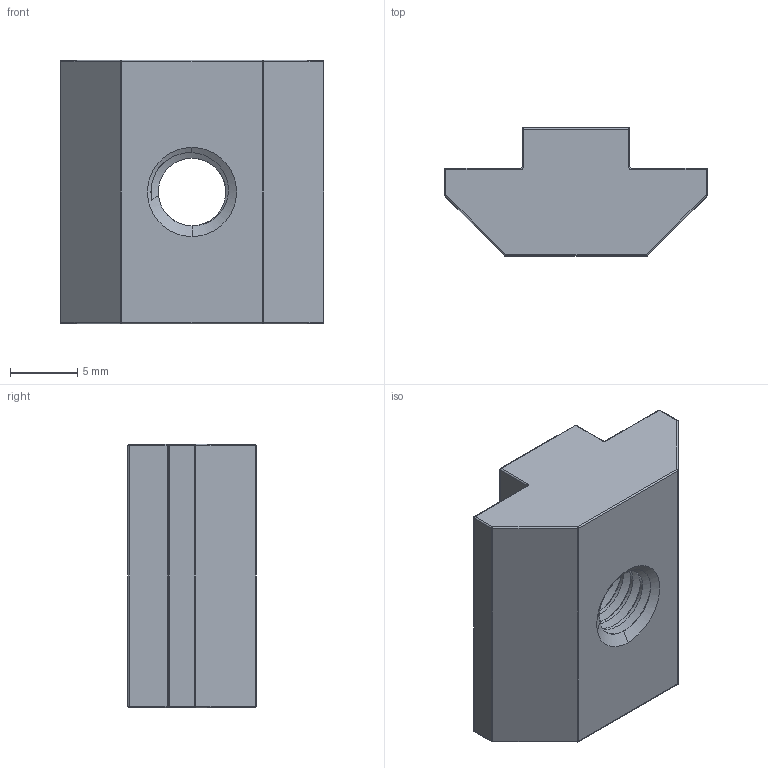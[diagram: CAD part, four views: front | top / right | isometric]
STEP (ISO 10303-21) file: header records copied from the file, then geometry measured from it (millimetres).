
FILE_DESCRIPTION (( 'STEP AP203' ), '1' );
FILE_NAME ('TANLN-AL-40-M6.STEP', '2026-08-25T08:17:17', ( '' ), ( '' ), 'SwSTEP 2.0', 'SolidWorks 2020', '' );
FILE_SCHEMA (( 'CONFIG_CONTROL_DESIGN' ));
Length unit declared in the file: millimetre
Products named in the file (1): TANLN-AL-40-M6
Bounding box: 19.5 x 9.5 x 19.5 mm (x, y, z)
Volume: 2315.7 mm3; surface area: 1484.3 mm2
Topology: 1 solids, 1 shells, 88 faces, 213 edges, 115 vertices
Faces by surface type: cylinder 49, sphere 16, plane 12, cone 4, torus 4, bspline 3
Entity records: 4346 total; most frequent: CARTESIAN_POINT 2397, ORIENTED_EDGE 402, DIRECTION 396, EDGE_CURVE 201, AXIS2_PLACEMENT_3D 157, VERTEX_POINT 115, EDGE_LOOP 90, ADVANCED_FACE 88
